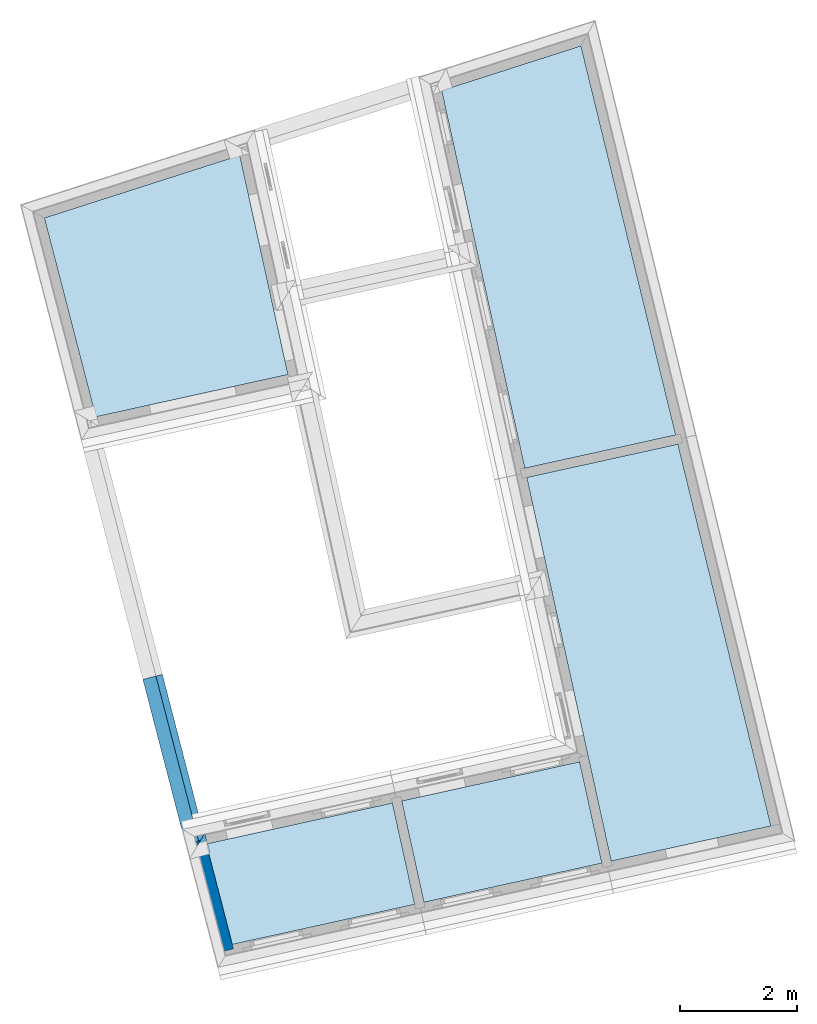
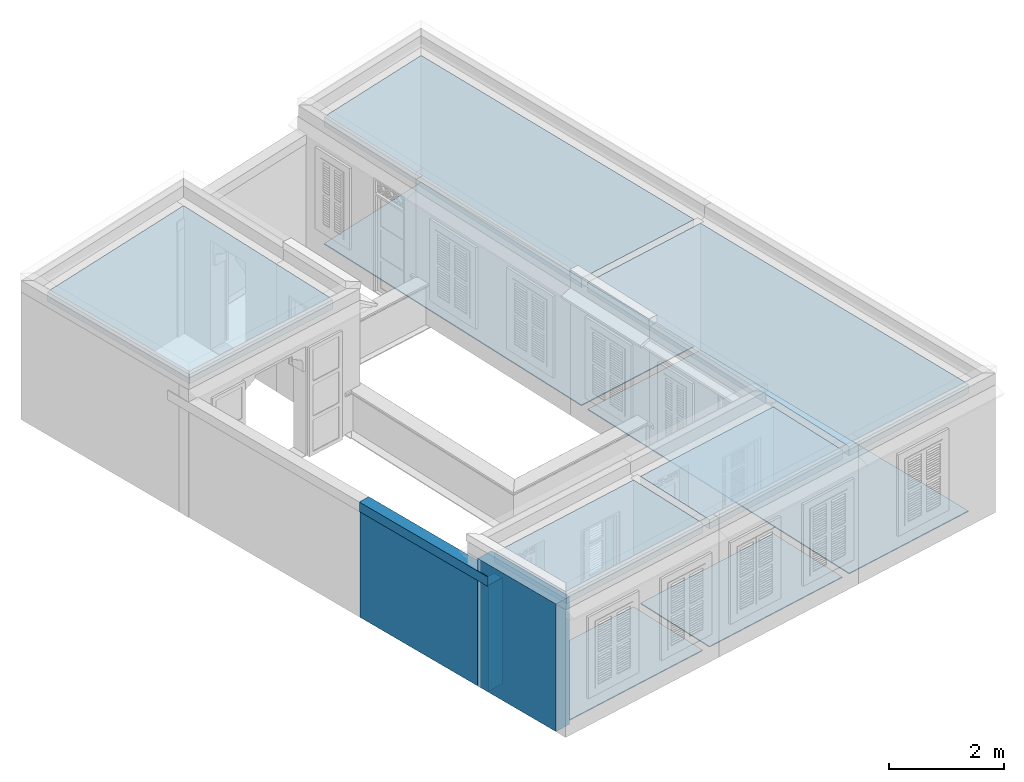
# One storey, part 1 of 17: 9 slabs, 4 walls.
"""IFC4 building model written with IfcOpenShell, lengths in metres."""

from ifc_helpers import new_model, si_unit, frame, origin_with_axes, place, context, subcontext, project, spatial, polyline, outline, extrude, clip, halfspace, material, layer, layer_set, layer_usage, material_profile, profile_set, profile_usage, type_object, element, save


model = new_model("IFC4")

# Units and contexts
model_context = context("Model", 3, world=origin_with_axes())
body_context = subcontext(model_context, "Body", "Model", "MODEL_VIEW")
ifc_project = project(units=[si_unit("PLANEANGLEUNIT", "RADIAN"), si_unit("MASSUNIT", "GRAM", prefix="KILO"), si_unit("FORCEUNIT", "NEWTON", prefix="KILO"), si_unit("LENGTHUNIT", "METRE"), si_unit("AREAUNIT", "SQUARE_METRE"), si_unit("VOLUMEUNIT", "CUBIC_METRE")], contexts=[model_context, model_context])

# Site, building, storey
site_placement = place(None, origin_with_axes())
site = spatial("IfcSite", under=ifc_project, at=site_placement, Name="Site plot-2", CompositionType="ELEMENT")
building_placement = place(None, origin_with_axes())
building = spatial("IfcBuilding", under=site, at=building_placement, Name="Building plot-2", CompositionType="ELEMENT")
storey_placement = place(None, frame((0.0, 0.0, 2.85), z_axis=(0.0, 0.0, 1.0), x_axis=(1.0, 0.0, 0.0)))
storey = spatial("IfcBuildingStorey", under=building, at=storey_placement, Name="plot-2 1", CompositionType="ELEMENT", Elevation=2.85)

# Slabs
slab_1_placement = place(storey_placement, frame((17.3383572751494, 4.51947067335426, 2.5)))
element("IfcSlab", 1, at=slab_1_placement, inside=storey, Name="My Slab", ObjectType="Slab", PredefinedType="FLOOR", context=body_context, shape_type="SweptSolid", body=[
    extrude(outline(polyline([(0.0, 0.0), (-3.04550648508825, -0.669838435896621), (-2.66411194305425, -2.40389770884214), (0.381394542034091, -1.73405927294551), (0.0, 0.0)])), origin_with_axes(), (0.0, 0.0, 1.0), 0.2),
])
slab_2_placement = place(storey_placement, frame((17.3383572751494, 4.51947067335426, 0.0)))
element("IfcSlab", 2, at=slab_2_placement, inside=storey, Name="My Slab", ObjectType="Slab", PredefinedType="FLOOR", context=body_context, shape_type="SweptSolid", body=[
    extrude(outline(polyline([(0.0, 0.0), (-3.04550648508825, -0.669838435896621), (-2.66411194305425, -2.40389770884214), (0.381394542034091, -1.73405927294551), (0.0, 0.0)])), origin_with_axes(), (0.0, 0.0, 1.0), 0.02),
])
slab_3_placement = place(storey_placement, frame((14.1365858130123, 3.81526281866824, 2.5)))
element("IfcSlab", 3, at=slab_3_placement, inside=storey, Name="My Slab", ObjectType="Slab", PredefinedType="FLOOR", context=body_context, shape_type="SweptSolid", body=[
    extrude(outline(polyline([(0.0, 0.0), (-3.18404303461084, -0.700308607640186), (-2.73893873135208, -2.42035535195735), (0.381394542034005, -1.73405927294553), (0.0, 0.0)])), origin_with_axes(), (0.0, 0.0, 1.0), 0.2),
])
slab_4_placement = place(storey_placement, frame((14.1365858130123, 3.81526281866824, 0.0)))
element("IfcSlab", 4, at=slab_4_placement, inside=storey, Name="My Slab", ObjectType="Slab", PredefinedType="FLOOR", context=body_context, shape_type="SweptSolid", body=[
    extrude(outline(polyline([(0.0, 0.0), (-3.18404303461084, -0.700308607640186), (-2.73893873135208, -2.42035535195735), (0.381394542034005, -1.73405927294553), (0.0, 0.0)])), origin_with_axes(), (0.0, 0.0, 1.0), 0.02),
])
slab_5_placement = place(storey_placement, frame((8.18233238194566, 13.8200661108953, 2.5)))
element("IfcSlab", 5, at=slab_5_placement, inside=storey, Name="My Slab", ObjectType="Slab", PredefinedType="FLOOR", context=body_context, shape_type="SweptSolid", body=[
    extrude(outline(polyline([(0.0, 0.0), (0.880315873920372, -3.40186433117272), (4.16822936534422, -2.67871012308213), (3.34323647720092, 1.07222600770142), (0.0, 0.0)])), origin_with_axes(), (0.0, 0.0, 1.0), 0.2),
])
slab_6_placement = place(storey_placement, frame((20.6099741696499, 3.42109614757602, 2.5)))
element("IfcSlab", 6, at=slab_6_placement, inside=storey, Name="My Slab", ObjectType="Slab", PredefinedType="FLOOR", context=body_context, shape_type="SweptSolid", body=[
    extrude(outline(polyline([(0.0, 0.0), (-1.59038398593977, 6.5307298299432), (-4.17745271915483, 5.96172165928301), (-2.73395737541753, -0.601315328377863), (0.0, 0.0)])), origin_with_axes(), (0.0, 0.0, 1.0), 0.2),
])
slab_7_placement = place(storey_placement, frame((20.6099741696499, 3.42109614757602, 0.0)))
element("IfcSlab", 7, at=slab_7_placement, inside=storey, Name="My Slab", ObjectType="Slab", PredefinedType="FLOOR", context=body_context, shape_type="SweptSolid", body=[
    extrude(outline(polyline([(0.0, 0.0), (-1.59038398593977, 6.5307298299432), (-4.17745271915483, 5.96172165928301), (-2.73395737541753, -0.601315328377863), (0.0, 0.0)])), origin_with_axes(), (0.0, 0.0, 1.0), 0.02),
])
slab_8_placement = place(storey_placement, frame((18.9817233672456, 10.1073217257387, 2.5)))
element("IfcSlab", 8, at=slab_8_placement, inside=storey, Name="My Slab", ObjectType="Slab", PredefinedType="FLOOR", context=body_context, shape_type="SweptSolid", body=[
    extrude(outline(polyline([(0.0, 0.0), (-1.62098663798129, 6.65639611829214), (-4.00445314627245, 5.89198271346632), (-2.58357133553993, -0.568238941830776), (0.0, 0.0)])), origin_with_axes(), (0.0, 0.0, 1.0), 0.2),
])
slab_9_placement = place(storey_placement, frame((18.9817233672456, 10.1073217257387, 0.0)))
element("IfcSlab", 9, at=slab_9_placement, inside=storey, Name="My Slab", ObjectType="Slab", PredefinedType="FLOOR", context=body_context, shape_type="SweptSolid", body=[
    extrude(outline(polyline([(0.0, 0.0), (-1.62098663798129, 6.65639611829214), (-4.00445314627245, 5.89198271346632), (-2.58357133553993, -0.568238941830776), (0.0, 0.0)])), origin_with_axes(), (0.0, 0.0, 1.0), 0.02),
])

# Walls
ifc_material = material(Name="Masonry")
ifc_layer = layer(ifc_material, 0.33, ventilated=False)
ifc_layer_set = layer_set([ifc_layer], Name="party_0.08_0.25")
ifc_layer_usage = layer_usage(ifc_layer_set, "AXIS2", "POSITIVE", -0.25)
wall_type_1 = type_object("IfcWallType", Name="party_0.08_0.25", PredefinedType="SOLIDWALL", material=ifc_layer_set)
wall_1_placement = place(storey_placement, frame((10.854302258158, 3.17525902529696, 0.0), z_axis=(0.0, 0.0, 1.0), x_axis=(0.250522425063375, -0.968110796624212, 0.0)))
element("IfcWall", 10, at=wall_1_placement, inside=storey, type_object=wall_type_1, material=ifc_layer_usage, Name="party", context=body_context, shape_type="SweptSolid", body=[
    extrude(outline(polyline([(1.29243565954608e-16, 0.0800000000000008), (-4.59242549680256e-17, -0.249999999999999), (1.936812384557, -0.249999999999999), (1.936812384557, 0.0800000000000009), (1.29243565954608e-16, 0.0800000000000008)])), origin_with_axes(), (0.0, 0.0, 1.0), 2.7),
])
ifc_material_profile_1 = material_profile(None, outline(polyline([(0.25, 0.0), (0.25, 2.245), (0.05, 2.245), (0.05, 0.02), (-0.08, 0.02), (-0.08, 0.0), (0.25, 0.0)])))
ifc_profile_set_1 = profile_set([ifc_material_profile_1])
ifc_profile_usage_1 = profile_usage(ifc_profile_set_1)
wall_type_2 = type_object("IfcWallType", Name="parapet party_0", PredefinedType="PARAPET", material=ifc_profile_set_1)
wall_2_placement = place(storey_placement, frame((11.1048246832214, 2.20714822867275, 0.0), z_axis=(-0.250522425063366, 0.968110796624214, 0.0), x_axis=(-0.968110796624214, -0.250522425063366, 0.0)))
element("IfcWall", 11, at=wall_2_placement, inside=storey, type_object=wall_type_2, material=ifc_profile_usage_1, Name="parapet party_0", context=body_context, shape_type="Clipping", body=[
    clip(clip(extrude(outline(polyline([(0.25, 0.0), (0.25, 2.245), (0.05, 2.245), (0.05, 0.02), (-0.08, 0.02), (-0.08, 0.0), (0.25, 0.0)])), origin_with_axes(), (0.0, 0.0, 1.0), 4.91242197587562), halfspace(frame((0.0, 0.0, 3.91242197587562), z_axis=(-1.61554457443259e-15, 0.0, -1.0), x_axis=(0.0, 1.0, 0.0)), True)), halfspace(frame((0.0, 0.0, 1.0), z_axis=(-0.707106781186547, 0.0, -0.707106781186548), x_axis=(0.0, 1.0, 0.0)), False)),
])
ifc_profile_usage_2 = profile_usage(ifc_profile_set_1)
wall_3_placement = place(storey_placement, frame((11.9192241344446, 3.45083369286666, 0.0), z_axis=(-0.968110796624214, -0.250522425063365, 0.0), x_axis=(0.250522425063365, -0.968110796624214, 0.0)))
element("IfcWall", 12, at=wall_3_placement, inside=storey, type_object=wall_type_2, material=ifc_profile_usage_2, Name="parapet party_0", context=body_context, shape_type="Clipping", body=[
    clip(clip(extrude(outline(polyline([(0.25, 0.0), (0.25, 2.245), (0.05, 2.245), (0.05, 0.02), (-0.08, 0.02), (-0.08, 0.0), (0.25, 0.0)])), origin_with_axes(), (0.0, 0.0, 1.0), 2.1), halfspace(frame((0.0, 0.0, 1.1), z_axis=(0.707106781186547, 0.0, -0.707106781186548), x_axis=(0.0, 1.0, 0.0)), True)), halfspace(frame((0.0, 0.0, 1.0), z_axis=(3.82856869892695e-16, 0.0, -1.0), x_axis=(0.0, 1.0, 0.0)), False)),
])
ifc_material_profile_2 = material_profile(None, outline(polyline([(0.265, 2.245), (0.265, 2.445), (0.035, 2.445), (0.035, 2.245), (0.265, 2.245)])))
ifc_profile_set_2 = profile_set([ifc_material_profile_2])
ifc_profile_usage_3 = profile_usage(ifc_profile_set_2)
wall_type_3 = type_object("IfcWallType", Name="parapet party_1", PredefinedType="PARAPET", material=ifc_profile_set_2)
wall_4_placement = place(storey_placement, frame((11.1048246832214, 2.20714822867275, 0.0), z_axis=(-0.250522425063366, 0.968110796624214, 0.0), x_axis=(-0.968110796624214, -0.250522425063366, 0.0)))
element("IfcWall", 13, at=wall_4_placement, inside=storey, type_object=wall_type_3, material=ifc_profile_usage_3, Name="parapet party_1", context=body_context, shape_type="Clipping", body=[
    clip(clip(extrude(outline(polyline([(0.265, 2.245), (0.265, 2.445), (0.035, 2.445), (0.035, 2.245), (0.265, 2.245)])), origin_with_axes(), (0.0, 0.0, 1.0), 4.91242197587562), halfspace(frame((0.0, 0.0, 3.91242197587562), z_axis=(-1.61554457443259e-15, 0.0, -1.0), x_axis=(0.0, 1.0, 0.0)), True)), halfspace(frame((0.0, 0.0, 1.0), z_axis=(-0.707106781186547, 0.0, -0.707106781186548), x_axis=(0.0, 1.0, 0.0)), False)),
])

save(model, "model.ifc")
